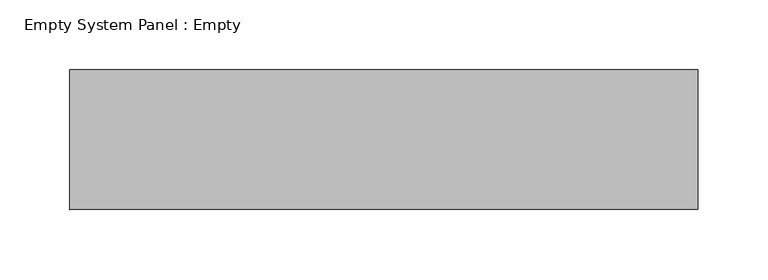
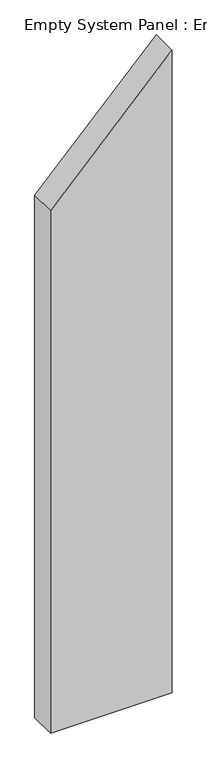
"""IFC4 building model written with IfcOpenShell, lengths in millimetres: plate geometry, Empty System Panel : Empty."""

from ifc_helpers import new_model, si_unit, frame, origin, place, context, project, spatial, polyline, outline, extrude, source, transform, mapped, element, save


def empty_system_panel_empty_eb190688(model_context):
    return source(origin(), model_context, "Body", "SweptSolid", [
        extrude(outline(polyline([(0.0, -225.0), (0.0, 225.0), (2511.6916995, 225.0), (2041.8779066, -225.0), (0.0, -225.0)])), frame((0.0, -50.0, 0.0), z_axis=(0.0, 1.0, 0.0), x_axis=(0.0, 0.0, 1.0)), (0.0, 0.0, 1.0), 100.0),
    ])


if __name__ == "__main__":
    model = new_model("IFC4")
    model_context = context("Model", 3, world=origin())
    ifc_project = project(units=[si_unit("LENGTHUNIT", "METRE", prefix="MILLI")], contexts=[model_context])
    site = spatial("IfcSite", under=ifc_project)
    building = spatial("IfcBuilding", under=site)
    placement = place(None, origin())
    empty_system_panel_empty_shape = empty_system_panel_empty_eb190688(model_context)
    element("IfcPlate", 1, ObjectType="Empty System Panel : Empty", at=placement, inside=building, context=model_context, shape_type="MappedRepresentation", body=[
        mapped(empty_system_panel_empty_shape, transform((0.0, 0.0, 0.0), x_axis=(1.0, 0.0, 0.0), y_axis=(0.0, 1.0, 0.0), z_axis=(0.0, 0.0, 1.0))),
    ])
    save(model, "model.ifc")
